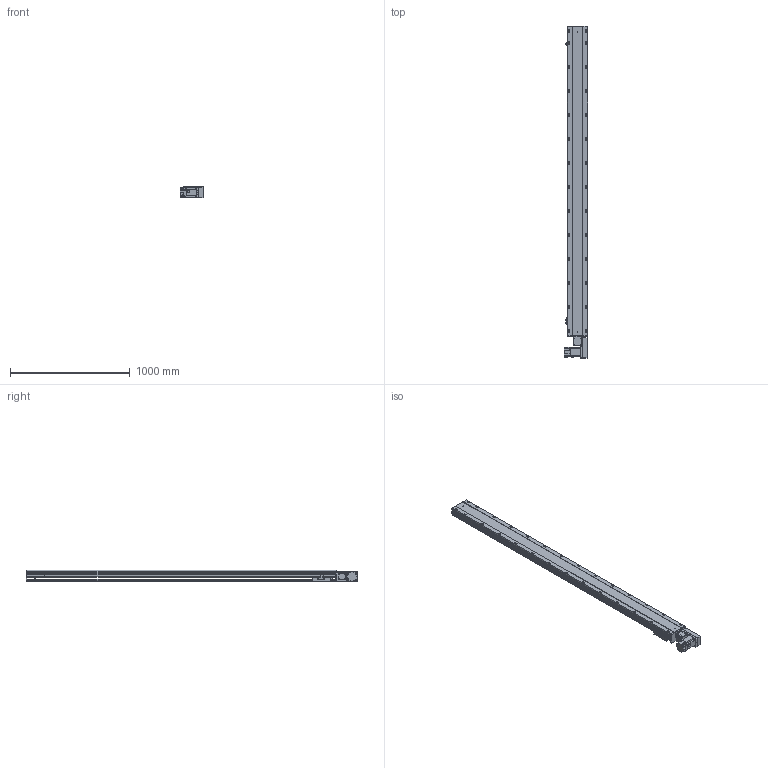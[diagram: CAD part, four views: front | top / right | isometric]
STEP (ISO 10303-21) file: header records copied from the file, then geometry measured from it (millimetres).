
FILE_DESCRIPTION (( 'STEP AP203' ), '1' );
FILE_NAME ('BTB17-L50-2300-L-T75-C4.STEP', '2022-07-26T01:19:21', ( 'CXY' ), ( 'BT' ), 'SwSTEP 2.0', 'SolidWorks 2016', '' );
FILE_SCHEMA (( 'CONFIG_CONTROL_DESIGN' ));
Length unit declared in the file: millimetre
Products named in the file (10): BTB17-L-HZ; BTB17-L-23; BTB17-L50-2300-L-T75-C4; BTB17-L-06; BTB17-L-24; BTB17-L-04; T75; BTB17-L-01; BTB17-L-菁釱_XD; BTB17-L-02
Assembly tree (12 placements, depth 2):
  BTB17-L50-2300-L-T75-C4
    BTB17-L-菁釱_XD
    BTB17-L-01
    BTB17-L-04  x3
    BTB17-L-06
    BTB17-L-23  x2
    BTB17-L-24
    BTB17-L-HZ
    BTB17-L-02
    T75
Bounding box: 195.3 x 2769.5 x 97 mm (x, y, z)
Volume: 22885547.3 mm3; surface area: 2930252.5 mm2
Topology: 22 solids, 22 shells, 1714 faces, 4485 edges, 2824 vertices
Faces by surface type: plane 882, cylinder 624, cone 172, bspline 20, torus 16
Entity records: 44237 total; most frequent: CARTESIAN_POINT 8204, DIRECTION 7471, ORIENTED_EDGE 7074, EDGE_CURVE 3537, AXIS2_PLACEMENT_3D 2615, VERTEX_POINT 2292, LINE 2241, VECTOR 2241
